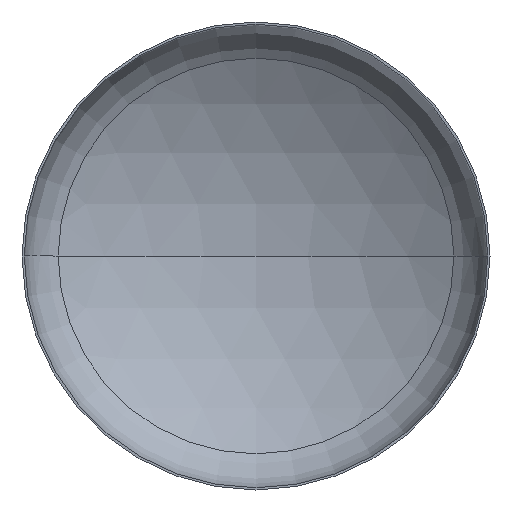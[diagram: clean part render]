
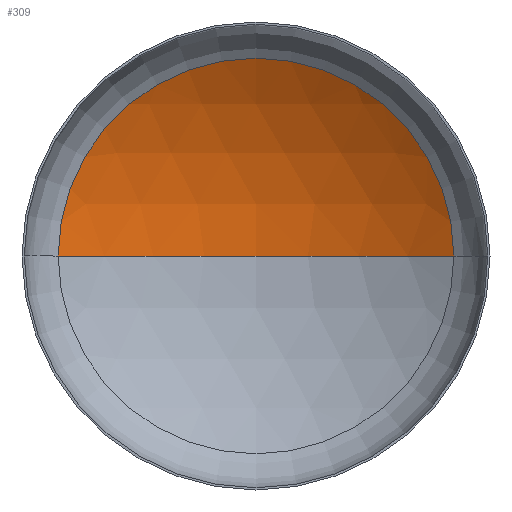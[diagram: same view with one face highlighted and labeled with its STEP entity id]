
A CAD part, front view. The second image highlights one B-rep face of the part: STEP entity #309.
In plain terms, the highlighted spherical face has radius 3040 mm.
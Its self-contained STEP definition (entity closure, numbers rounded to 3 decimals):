
#8 = AXIS2_PLACEMENT_3D ( 'NONE', #117, #78, #103 ) ;
#12 = EDGE_LOOP ( 'NONE', ( #153, #143, #86 ) ) ;
#23 = DIRECTION ( 'NONE',  ( -1., 0., 0. ) ) ;
#24 = AXIS2_PLACEMENT_3D ( 'NONE', #139, #388, #255 ) ;
#26 = AXIS2_PLACEMENT_3D ( 'NONE', #29, #239, #23 ) ;
#29 = CARTESIAN_POINT ( 'NONE',  ( 0., -2029.422, 0. ) ) ;
#33 = VERTEX_POINT ( 'NONE', #290 ) ;
#46 = AXIS2_PLACEMENT_3D ( 'NONE', #310, #307, #219 ) ;
#52 = VERTEX_POINT ( 'NONE', #293 ) ;
#68 = VERTEX_POINT ( 'NONE', #223 ) ;
#74 = EDGE_CURVE ( 'NONE', #68, #33, #204, .T. ) ;
#78 = DIRECTION ( 'NONE',  ( 0., 0., -1. ) ) ;
#86 = ORIENTED_EDGE ( 'NONE', *, *, #74, .T. ) ;
#103 = DIRECTION ( 'NONE',  ( -1., 0., 0. ) ) ;
#117 = CARTESIAN_POINT ( 'NONE',  ( 0., -2029.422, 0. ) ) ;
#139 = CARTESIAN_POINT ( 'NONE',  ( 0., -2029.422, 0. ) ) ;
#143 = ORIENTED_EDGE ( 'NONE', *, *, #363, .T. ) ;
#153 = ORIENTED_EDGE ( 'NONE', *, *, #344, .F. ) ;
#170 = FACE_OUTER_BOUND ( 'NONE', #12, .T. ) ;
#204 = CIRCLE ( 'NONE', #46, 1606.061 ) ;
#219 = DIRECTION ( 'NONE',  ( 1., 0., 0. ) ) ;
#223 = CARTESIAN_POINT ( 'NONE',  ( 1606.061, 551.695, 0. ) ) ;
#224 = CIRCLE ( 'NONE', #8, 3040. ) ;
#238 = SPHERICAL_SURFACE ( 'NONE', #26, 3040. ) ;
#239 = DIRECTION ( 'NONE',  ( 0., 0., -1. ) ) ;
#255 = DIRECTION ( 'NONE',  ( 1., 0., 0. ) ) ;
#290 = CARTESIAN_POINT ( 'NONE',  ( -1606.061, 551.695, 0. ) ) ;
#293 = CARTESIAN_POINT ( 'NONE',  ( 0., 1010.578, 0. ) ) ;
#307 = DIRECTION ( 'NONE',  ( 0., -1., 0. ) ) ;
#309 = ADVANCED_FACE ( 'NONE', ( #170 ), #238, .F. ) ;
#310 = CARTESIAN_POINT ( 'NONE',  ( 0., 551.695, 0. ) ) ;
#344 = EDGE_CURVE ( 'NONE', #52, #33, #411, .T. ) ;
#363 = EDGE_CURVE ( 'NONE', #52, #68, #224, .T. ) ;
#388 = DIRECTION ( 'NONE',  ( 0., 0., 1. ) ) ;
#411 = CIRCLE ( 'NONE', #24, 3040. ) ;
